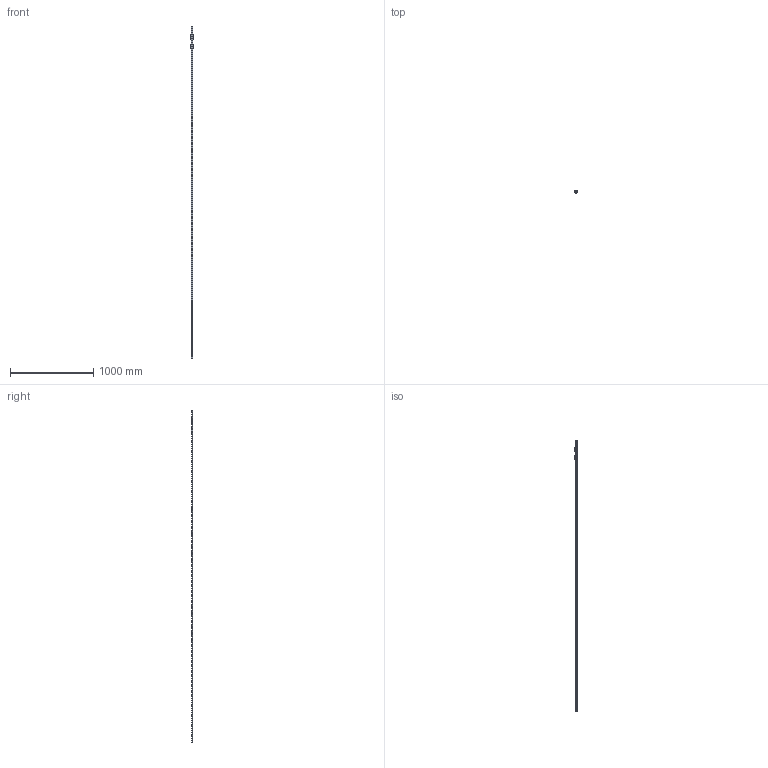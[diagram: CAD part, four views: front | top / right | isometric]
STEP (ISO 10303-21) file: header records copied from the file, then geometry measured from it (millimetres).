
FILE_DESCRIPTION((''),'2;1');
FILE_NAME('BRS15-U0_CUSTOMER_ASM_1_ASM_1_ASM','2020-11-24T16:58:41',('TWVS2025'),(''),'CREO PARAMETRIC BY PTC INC, 2018420','CREO PARAMETRIC BY PTC INC, 2018420','');
FILE_SCHEMA(('CONFIG_CONTROL_DESIGN'));
Products named in the file (4): BC-BRC15-U0_ASM_1_1; BRR15_CUSTOMER_1__1_1_2_3_4_5; BC-BRD15-U0-ASM_ASM_1_ASM; BRS15-U0_CUSTOMER_ASM_1_ASM_1_ASM
Assembly tree (3 placements, depth 2):
  BRS15-U0_CUSTOMER_ASM_1_ASM_1_ASM
    BC-BRC15-U0_ASM_1_1
    BRR15_CUSTOMER_1__1_1_2_3_4_5
    BC-BRD15-U0-ASM_ASM_1_ASM
Bounding box: 33.95 x 24 x 4000 mm (x, y, z)
Volume: 739767.1 mm3; surface area: 287954.2 mm2
Topology: 2 solids, 26 shells, 3995 faces, 11065 edges, 7073 vertices
Faces by surface type: plane 1747, cylinder 1334, cone 414, torus 338, bspline 148, sphere 14
Entity records: 175201 total; most frequent: CARTESIAN_POINT 76450, ORIENTED_EDGE 21852, DIRECTION 18908, EDGE_CURVE 11029, VERTEX_POINT 7073, AXIS2_PLACEMENT_3D 6736, VECTOR 5436, LINE 5436
